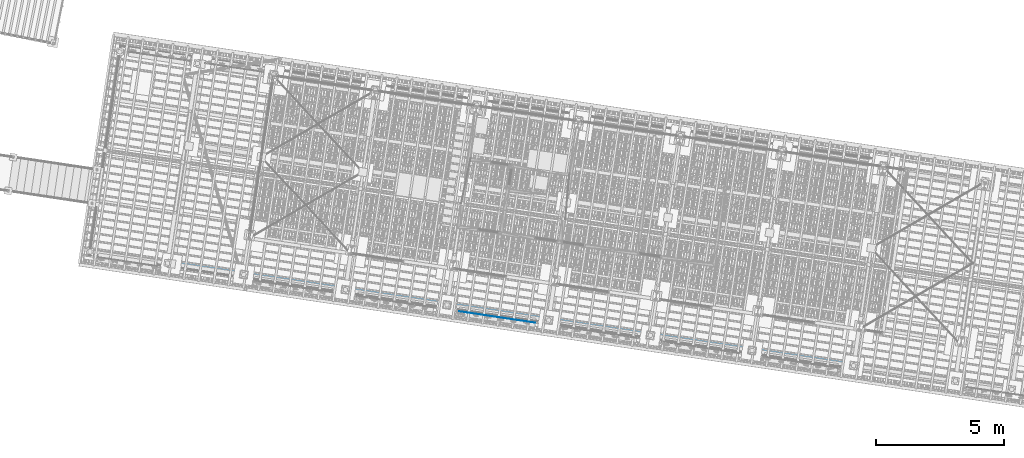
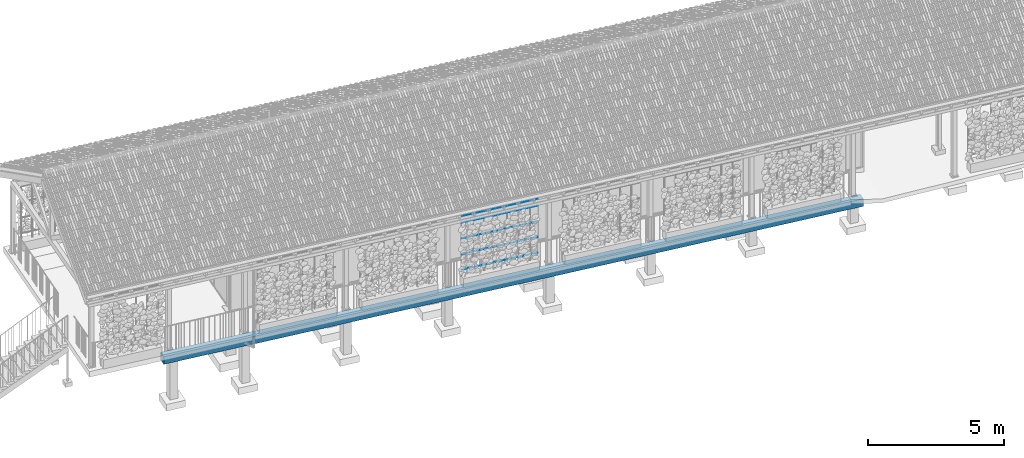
# One storey, part 53 of 131: 5 members, 1 beam, 2 elements without a shape of their own.
"""IFC4 building model written with IfcOpenShell, lengths in metres."""

from ifc_helpers import new_model, si_unit, direction, frame, origin_with_axes, place, context, subcontext, project, spatial, polyline, circle, outline, extrude, material, material_profile, profile_set, profile_usage, type_object, element, aggregate, save


model = new_model("IFC4")

# Units and contexts
model_context = context("Model", 3, precision=1e-05, world=origin_with_axes(), true_north=direction((0.0, 1.0)))
body_context = subcontext(model_context, "Body", "Model", "MODEL_VIEW")
ifc_project = project(units=[si_unit("VOLUMEUNIT", "CUBIC_METRE"), si_unit("LENGTHUNIT", "METRE"), si_unit("AREAUNIT", "SQUARE_METRE")], contexts=[model_context])

# Site, building, storey
site_placement = place(None, origin_with_axes())
site = spatial("IfcSite", under=ifc_project, at=site_placement, Name="Lares · Rua das Mercês · artigo 4771")
building_placement = place(site_placement, frame((15.0, 9.7, 14.65), z_axis=(0.0, 0.0, 1.0), x_axis=(0.989015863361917, -0.147809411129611, 0.0)))
building = spatial("IfcBuilding", under=site, at=building_placement, Name="Casa Sobreposta")
storey_placement = place(building_placement, origin_with_axes())
storey = spatial("IfcBuildingStorey", under=building, at=storey_placement, Name="00 · Habitação e estacionamento", Elevation=14.65)

# Assembly, members
assembly_1_placement = place(storey_placement, origin_with_axes())
assembly_1 = element("IfcElementAssembly", 1, at=assembly_1_placement, inside=storey, Name="Fachada sul e pátio · estrutura e trepadeiras", ObjectType="LIVING_SHADE_TRELLIS", PredefinedType="USERDEFINED")
ifc_material_1 = material(Name="Aço galvanizado / Stahl verzinkt", Category="steel")
ifc_material_profile = material_profile(ifc_material_1, circle(Radius=0.002))
ifc_profile_set = profile_set([ifc_material_profile], Name="D0.004")
ifc_profile_usage_1 = profile_usage(ifc_profile_set)
member_type = type_object("IfcMemberType", Name="D0.004 / galvanized", PredefinedType="NOTDEFINED", material=ifc_profile_set)
member_1_placement = place(assembly_1_placement, frame((8.5, -1.61, 0.65), z_axis=(1.0, 0.0, 0.0), x_axis=(0.0, -1.0, 0.0)))
member_1 = element("IfcMember", 2, at=member_1_placement, type_object=member_type, material=ifc_profile_usage_1, Name="Trepadeiras · fio horizontal", context=body_context, shape_type="SweptSolid", body=[
    extrude(circle(Radius=0.002), origin_with_axes(), (0.0, 0.0, 1.0), 3.0),
])
ifc_profile_usage_2 = profile_usage(ifc_profile_set)
member_2_placement = place(assembly_1_placement, frame((8.5, -1.61, 1.35), z_axis=(1.0, 0.0, 0.0), x_axis=(0.0, -1.0, 0.0)))
member_2 = element("IfcMember", 3, at=member_2_placement, type_object=member_type, material=ifc_profile_usage_2, Name="Trepadeiras · fio horizontal", context=body_context, shape_type="SweptSolid", body=[
    extrude(circle(Radius=0.002), origin_with_axes(), (0.0, 0.0, 1.0), 3.0),
])
ifc_profile_usage_3 = profile_usage(ifc_profile_set)
member_3_placement = place(assembly_1_placement, frame((8.5, -1.61, 2.05), z_axis=(1.0, 0.0, 0.0), x_axis=(0.0, -1.0, 0.0)))
member_3 = element("IfcMember", 4, at=member_3_placement, type_object=member_type, material=ifc_profile_usage_3, Name="Trepadeiras · fio horizontal", context=body_context, shape_type="SweptSolid", body=[
    extrude(circle(Radius=0.002), origin_with_axes(), (0.0, 0.0, 1.0), 3.0),
])
ifc_profile_usage_4 = profile_usage(ifc_profile_set)
member_4_placement = place(assembly_1_placement, frame((8.5, -1.61, 2.75), z_axis=(1.0, 0.0, 0.0), x_axis=(0.0, -1.0, 0.0)))
member_4 = element("IfcMember", 5, at=member_4_placement, type_object=member_type, material=ifc_profile_usage_4, Name="Trepadeiras · fio horizontal", context=body_context, shape_type="SweptSolid", body=[
    extrude(circle(Radius=0.002), origin_with_axes(), (0.0, 0.0, 1.0), 3.0),
])
ifc_profile_usage_5 = profile_usage(ifc_profile_set)
member_5_placement = place(assembly_1_placement, frame((8.5, -1.61, 3.05), z_axis=(1.0, 0.0, 0.0), x_axis=(0.0, -1.0, 0.0)))
member_5 = element("IfcMember", 6, at=member_5_placement, type_object=member_type, material=ifc_profile_usage_5, Name="Trepadeiras · fio horizontal", context=body_context, shape_type="SweptSolid", body=[
    extrude(circle(Radius=0.002), origin_with_axes(), (0.0, 0.0, 1.0), 3.0),
])
aggregate(assembly_1, [member_1, member_2, member_3, member_4, member_5])

# Assembly, beam
assembly_2_placement = place(storey_placement, origin_with_axes())
assembly_2 = element("IfcElementAssembly", 7, at=assembly_2_placement, inside=storey, Name="Pódio · terraço, casa térrea e cisterna", ObjectType="CISTERN_PODIUM", PredefinedType="USERDEFINED")
ifc_material_2 = material(Name="Betão armado / Stahlbeton", Category="concrete")
beam_placement = place(assembly_2_placement, frame((0.0, 0.0, -0.59), z_axis=(0.0, 0.0, 1.0), x_axis=(1.0, 0.0, 0.0)))
beam = element("IfcBeam", 8, at=beam_placement, material=ifc_material_2, Name="Pódio suspenso · viga longitudinal", context=body_context, shape_type="SweptSolid", body=[
    extrude(outline(polyline([(24.36, -1.59), (24.36, -1.27), (-3.25, -1.27), (-3.25, -1.59), (24.36, -1.59)])), origin_with_axes(), (0.0, 0.0, 1.0), 0.34),
])
aggregate(assembly_2, [beam])

save(model, "model.ifc")
